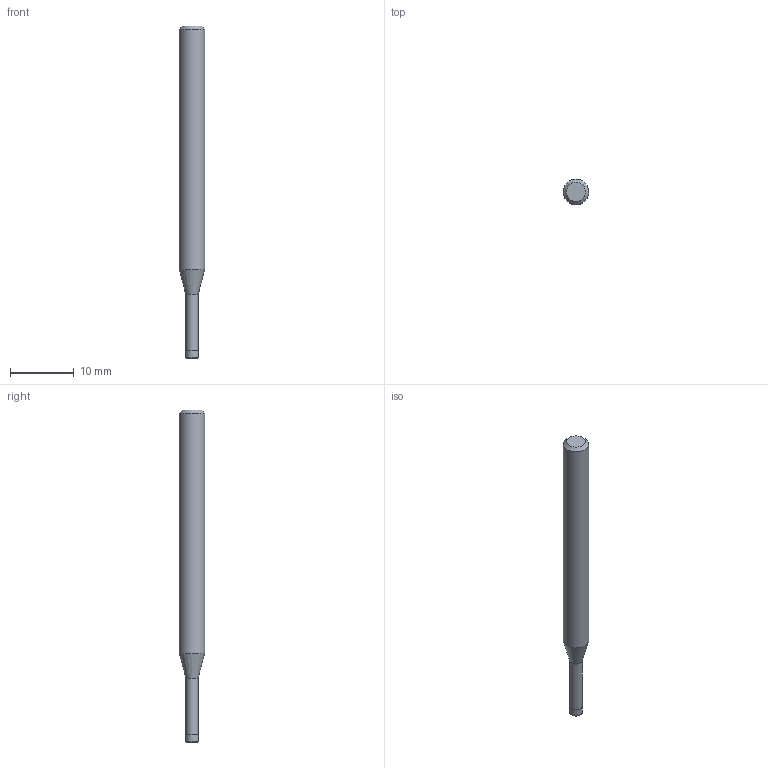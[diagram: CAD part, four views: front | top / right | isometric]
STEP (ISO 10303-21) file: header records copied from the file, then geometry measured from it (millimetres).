
FILE_DESCRIPTION((''),'2;1');
FILE_NAME('C:\Users\nsx150\AppData\Local\Temp\Mastercam 2021\LJSIDMOTM8\TEMP.step','2021-08-03T13:51:29',(''),(''),'STEP Write','Mastercam 2021 ... CNC Software, Inc.','');
FILE_SCHEMA(('AUTOMOTIVE_DESIGN'));
Length unit declared in the file: millimetre
Products named in the file (1): None
Bounding box: 4 x 4 x 52 mm (x, y, z)
Volume: 535.5 mm3; surface area: 595.3 mm2
Topology: 2 solids, 2 shells, 10 faces, 14 edges, 8 vertices
Faces by surface type: plane 4, cylinder 3, cone 2, torus 1
Full cylindrical faces by diameter (mm): 1.94 x1, 2 x1, 4 x1
Entity records: 232 total; most frequent: DIRECTION 40, CARTESIAN_POINT 28, AXIS2_PLACEMENT_3D 20, ORIENTED_EDGE 16, EDGE_LOOP 16, STYLED_ITEM 13, ADVANCED_FACE 10, FACE_BOUND 10
